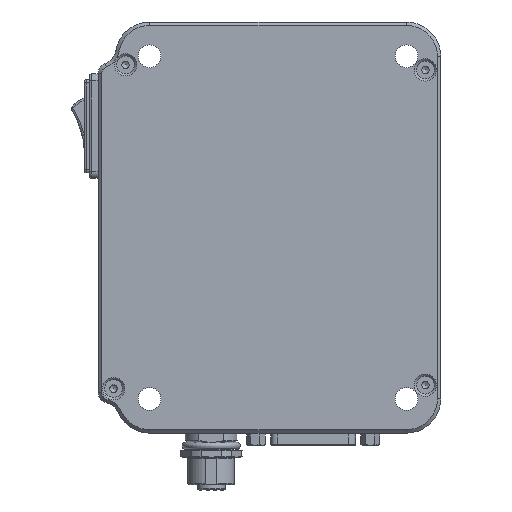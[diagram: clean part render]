
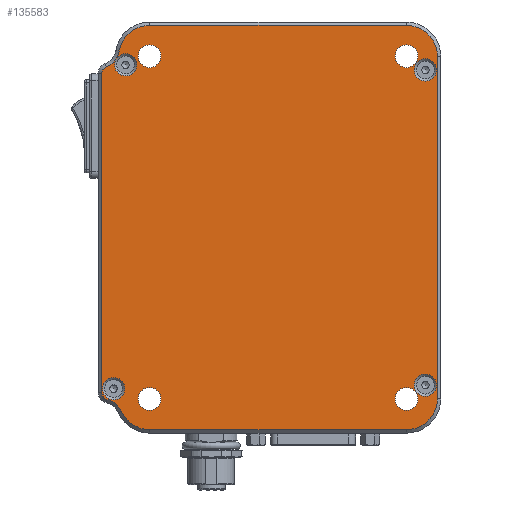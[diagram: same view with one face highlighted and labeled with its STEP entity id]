
A CAD part, front view. The second image highlights one B-rep face of the part: STEP entity #135583.
In plain terms, the highlighted planar face has unit normal (0, -1, 0).
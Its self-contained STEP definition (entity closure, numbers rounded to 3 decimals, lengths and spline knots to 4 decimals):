
#6874=FACE_BOUND('',#49024,.T.);
#6875=FACE_BOUND('',#49025,.T.);
#6876=FACE_BOUND('',#49026,.T.);
#6877=FACE_BOUND('',#49027,.T.);
#6878=FACE_BOUND('',#49028,.T.);
#6879=FACE_BOUND('',#49029,.T.);
#6880=FACE_BOUND('',#49030,.T.);
#6881=FACE_BOUND('',#49031,.T.);
#7965=PLANE('',#143008);
#13661=LINE('',#183525,#27796);
#13667=LINE('',#183549,#27802);
#13671=LINE('',#183561,#27806);
#13675=LINE('',#183573,#27810);
#27796=VECTOR('',#151208,0.3937);
#27802=VECTOR('',#151234,0.3937);
#27806=VECTOR('',#151246,0.3937);
#27810=VECTOR('',#151258,0.3937);
#41657=FACE_OUTER_BOUND('',#49023,.T.);
#49023=EDGE_LOOP('',(#93374,#93375,#93376,#93377,#93378,#93379,#93380,#93381,
#93382,#93383,#93384,#93385));
#49024=EDGE_LOOP('',(#93386));
#49025=EDGE_LOOP('',(#93387));
#49026=EDGE_LOOP('',(#93388));
#49027=EDGE_LOOP('',(#93389));
#49028=EDGE_LOOP('',(#93390));
#49029=EDGE_LOOP('',(#93391));
#49030=EDGE_LOOP('',(#93392));
#49031=EDGE_LOOP('',(#93393));
#56419=CIRCLE('',#142963,0.128);
#56422=CIRCLE('',#142967,0.128);
#56426=CIRCLE('',#142974,0.0787);
#56427=CIRCLE('',#142976,0.2362);
#56430=CIRCLE('',#142980,0.3543);
#56432=CIRCLE('',#142984,0.3543);
#56434=CIRCLE('',#142988,0.3543);
#56435=CIRCLE('',#142991,0.3543);
#56438=CIRCLE('',#142995,0.2362);
#56440=CIRCLE('',#142998,0.0787);
#56445=CIRCLE('',#143009,0.131);
#56446=CIRCLE('',#143010,0.131);
#56447=CIRCLE('',#143011,0.131);
#56448=CIRCLE('',#143012,0.131);
#56449=CIRCLE('',#143013,0.128);
#56450=CIRCLE('',#143014,0.128);
#58281=VERTEX_POINT('',#183499);
#58284=VERTEX_POINT('',#183507);
#58289=VERTEX_POINT('',#183521);
#58290=VERTEX_POINT('',#183523);
#58291=VERTEX_POINT('',#183527);
#58293=VERTEX_POINT('',#183533);
#58295=VERTEX_POINT('',#183539);
#58297=VERTEX_POINT('',#183545);
#58299=VERTEX_POINT('',#183551);
#58301=VERTEX_POINT('',#183557);
#58303=VERTEX_POINT('',#183563);
#58305=VERTEX_POINT('',#183569);
#58307=VERTEX_POINT('',#183575);
#58309=VERTEX_POINT('',#183581);
#58314=VERTEX_POINT('',#183607);
#58315=VERTEX_POINT('',#183609);
#58316=VERTEX_POINT('',#183611);
#58317=VERTEX_POINT('',#183613);
#58318=VERTEX_POINT('',#183615);
#58319=VERTEX_POINT('',#183617);
#71858=EDGE_CURVE('',#58281,#58281,#56419,.T.);
#71862=EDGE_CURVE('',#58284,#58284,#56422,.T.);
#71871=EDGE_CURVE('',#58290,#58289,#13661,.T.);
#71874=EDGE_CURVE('',#58289,#58291,#56426,.T.);
#71875=EDGE_CURVE('',#58291,#58293,#56427,.T.);
#71880=EDGE_CURVE('',#58293,#58295,#56430,.T.);
#71883=EDGE_CURVE('',#58295,#58297,#13667,.T.);
#71886=EDGE_CURVE('',#58297,#58299,#56432,.T.);
#71889=EDGE_CURVE('',#58299,#58301,#13671,.T.);
#71892=EDGE_CURVE('',#58301,#58303,#56434,.T.);
#71895=EDGE_CURVE('',#58303,#58305,#13675,.T.);
#71896=EDGE_CURVE('',#58305,#58307,#56435,.T.);
#71901=EDGE_CURVE('',#58307,#58309,#56438,.T.);
#71903=EDGE_CURVE('',#58309,#58290,#56440,.T.);
#71913=EDGE_CURVE('',#58314,#58314,#56445,.T.);
#71914=EDGE_CURVE('',#58315,#58315,#56446,.T.);
#71915=EDGE_CURVE('',#58316,#58316,#56447,.T.);
#71916=EDGE_CURVE('',#58317,#58317,#56448,.T.);
#71917=EDGE_CURVE('',#58318,#58318,#56449,.T.);
#71918=EDGE_CURVE('',#58319,#58319,#56450,.T.);
#93374=ORIENTED_EDGE('',*,*,#71871,.F.);
#93375=ORIENTED_EDGE('',*,*,#71903,.F.);
#93376=ORIENTED_EDGE('',*,*,#71901,.F.);
#93377=ORIENTED_EDGE('',*,*,#71896,.F.);
#93378=ORIENTED_EDGE('',*,*,#71895,.F.);
#93379=ORIENTED_EDGE('',*,*,#71892,.F.);
#93380=ORIENTED_EDGE('',*,*,#71889,.F.);
#93381=ORIENTED_EDGE('',*,*,#71886,.F.);
#93382=ORIENTED_EDGE('',*,*,#71883,.F.);
#93383=ORIENTED_EDGE('',*,*,#71880,.F.);
#93384=ORIENTED_EDGE('',*,*,#71875,.F.);
#93385=ORIENTED_EDGE('',*,*,#71874,.F.);
#93386=ORIENTED_EDGE('',*,*,#71913,.T.);
#93387=ORIENTED_EDGE('',*,*,#71914,.T.);
#93388=ORIENTED_EDGE('',*,*,#71915,.T.);
#93389=ORIENTED_EDGE('',*,*,#71916,.T.);
#93390=ORIENTED_EDGE('',*,*,#71917,.T.);
#93391=ORIENTED_EDGE('',*,*,#71862,.T.);
#93392=ORIENTED_EDGE('',*,*,#71858,.T.);
#93393=ORIENTED_EDGE('',*,*,#71918,.T.);
#135583=ADVANCED_FACE('',(#41657,#6874,#6875,#6876,#6877,#6878,#6879,#6880,
#6881),#7965,.F.);
#142963=AXIS2_PLACEMENT_3D('',#183500,#151183,#151184);
#142967=AXIS2_PLACEMENT_3D('',#183508,#151192,#151193);
#142974=AXIS2_PLACEMENT_3D('',#183531,#151214,#151215);
#142976=AXIS2_PLACEMENT_3D('',#183534,#151218,#151219);
#142980=AXIS2_PLACEMENT_3D('',#183543,#151228,#151229);
#142984=AXIS2_PLACEMENT_3D('',#183555,#151240,#151241);
#142988=AXIS2_PLACEMENT_3D('',#183567,#151252,#151253);
#142991=AXIS2_PLACEMENT_3D('',#183576,#151261,#151262);
#142995=AXIS2_PLACEMENT_3D('',#183585,#151271,#151272);
#142998=AXIS2_PLACEMENT_3D('',#183588,#151277,#151278);
#143008=AXIS2_PLACEMENT_3D('',#183606,#151302,#151303);
#143009=AXIS2_PLACEMENT_3D('',#183608,#151304,#151305);
#143010=AXIS2_PLACEMENT_3D('',#183610,#151306,#151307);
#143011=AXIS2_PLACEMENT_3D('',#183612,#151308,#151309);
#143012=AXIS2_PLACEMENT_3D('',#183614,#151310,#151311);
#143013=AXIS2_PLACEMENT_3D('',#183616,#151312,#151313);
#143014=AXIS2_PLACEMENT_3D('',#183618,#151314,#151315);
#151183=DIRECTION('center_axis',(0.,1.,0.));
#151184=DIRECTION('ref_axis',(1.,0.,0.));
#151192=DIRECTION('center_axis',(0.,1.,0.));
#151193=DIRECTION('ref_axis',(1.,0.,0.));
#151208=DIRECTION('',(0.,0.,1.));
#151214=DIRECTION('center_axis',(0.,1.,0.));
#151215=DIRECTION('ref_axis',(-1.,0.,0.));
#151218=DIRECTION('center_axis',(0.,-1.,0.));
#151219=DIRECTION('ref_axis',(0.,0.,-1.));
#151228=DIRECTION('center_axis',(0.,1.,0.));
#151229=DIRECTION('ref_axis',(-0.707,0.,0.707));
#151234=DIRECTION('',(1.,0.,0.));
#151240=DIRECTION('center_axis',(0.,1.,0.));
#151241=DIRECTION('ref_axis',(0.707,0.,0.707));
#151246=DIRECTION('',(0.,0.,-1.));
#151252=DIRECTION('center_axis',(0.,1.,0.));
#151253=DIRECTION('ref_axis',(0.707,0.,-0.707));
#151258=DIRECTION('',(-1.,0.,0.));
#151261=DIRECTION('center_axis',(0.,1.,0.));
#151262=DIRECTION('ref_axis',(0.,0.,-1.));
#151271=DIRECTION('center_axis',(0.,-1.,0.));
#151272=DIRECTION('ref_axis',(0.548,0.,0.837));
#151277=DIRECTION('center_axis',(0.,1.,0.));
#151278=DIRECTION('ref_axis',(-1.,0.,0.));
#151302=DIRECTION('center_axis',(0.,1.,0.));
#151303=DIRECTION('ref_axis',(-1.,0.,0.));
#151304=DIRECTION('center_axis',(0.,1.,0.));
#151305=DIRECTION('ref_axis',(1.,0.,0.));
#151306=DIRECTION('center_axis',(0.,1.,0.));
#151307=DIRECTION('ref_axis',(1.,0.,0.));
#151308=DIRECTION('center_axis',(0.,1.,0.));
#151309=DIRECTION('ref_axis',(1.,0.,0.));
#151310=DIRECTION('center_axis',(0.,1.,0.));
#151311=DIRECTION('ref_axis',(1.,0.,0.));
#151312=DIRECTION('center_axis',(0.,1.,0.));
#151313=DIRECTION('ref_axis',(1.,0.,0.));
#151314=DIRECTION('center_axis',(0.,1.,0.));
#151315=DIRECTION('ref_axis',(1.,0.,0.));
#183499=CARTESIAN_POINT('',(-1.8171,0.5292,-0.5512));
#183500=CARTESIAN_POINT('Origin',(-1.6892,0.5292,-0.5512));
#183507=CARTESIAN_POINT('',(-5.3998,0.5292,-4.2126));
#183508=CARTESIAN_POINT('Origin',(-5.2718,0.5292,-4.2126));
#183521=CARTESIAN_POINT('',(-5.4096,0.5292,-0.5905));
#183523=CARTESIAN_POINT('',(-5.4096,0.5292,-4.2596));
#183525=CARTESIAN_POINT('',(-5.4096,0.5292,-1.5551));
#183527=CARTESIAN_POINT('',(-5.3583,0.5292,-0.5167));
#183531=CARTESIAN_POINT('Origin',(-5.3309,0.5292,-0.5905));
#183533=CARTESIAN_POINT('',(-5.2078,0.5292,-0.3346));
#183534=CARTESIAN_POINT('Origin',(-5.4407,0.5292,-0.2953));
#183539=CARTESIAN_POINT('',(-4.8584,0.5292,-0.0394));
#183543=CARTESIAN_POINT('Origin',(-4.8584,0.5292,-0.3937));
#183545=CARTESIAN_POINT('',(-1.9057,0.5292,-0.0394));
#183549=CARTESIAN_POINT('',(-5.3014,0.5292,-0.0394));
#183551=CARTESIAN_POINT('',(-1.5514,0.5292,-0.3937));
#183555=CARTESIAN_POINT('Origin',(-1.9057,0.5292,-0.3937));
#183557=CARTESIAN_POINT('',(-1.5514,0.5292,-4.3307));
#183561=CARTESIAN_POINT('',(-1.5514,0.5292,-0.6004));
#183563=CARTESIAN_POINT('',(-1.9057,0.5292,-4.685));
#183567=CARTESIAN_POINT('Origin',(-1.9057,0.5292,-4.3307));
#183569=CARTESIAN_POINT('',(-4.8584,0.5292,-4.685));
#183573=CARTESIAN_POINT('',(-3.4313,0.5292,-4.685));
#183575=CARTESIAN_POINT('',(-5.1832,0.5292,-4.4724));
#183576=CARTESIAN_POINT('Origin',(-4.8584,0.5292,-4.3307));
#183581=CARTESIAN_POINT('',(-5.3481,0.5292,-4.3364));
#183585=CARTESIAN_POINT('Origin',(-5.3997,0.5292,-4.5669));
#183588=CARTESIAN_POINT('Origin',(-5.3309,0.5292,-4.2596));
#183606=CARTESIAN_POINT('Origin',(-5.3506,0.5292,-1.2008));
#183607=CARTESIAN_POINT('',(-4.9894,0.5292,-0.3937));
#183608=CARTESIAN_POINT('Origin',(-4.8584,0.5292,-0.3937));
#183609=CARTESIAN_POINT('',(-2.0367,0.5292,-4.3307));
#183610=CARTESIAN_POINT('Origin',(-1.9057,0.5292,-4.3307));
#183611=CARTESIAN_POINT('',(-2.0367,0.5292,-0.3937));
#183612=CARTESIAN_POINT('Origin',(-1.9057,0.5292,-0.3937));
#183613=CARTESIAN_POINT('',(-4.9894,0.5292,-4.3307));
#183614=CARTESIAN_POINT('Origin',(-4.8584,0.5292,-4.3307));
#183615=CARTESIAN_POINT('',(-1.8171,0.5292,-4.1732));
#183616=CARTESIAN_POINT('Origin',(-1.6892,0.5292,-4.1732));
#183617=CARTESIAN_POINT('',(-5.262,0.5292,-0.4921));
#183618=CARTESIAN_POINT('Origin',(-5.134,0.5292,-0.4921));
